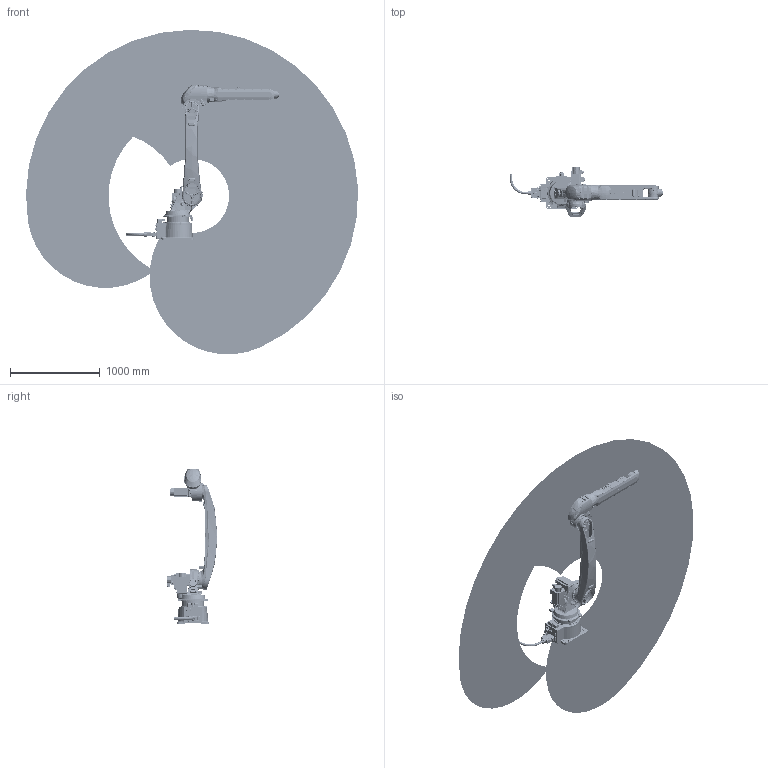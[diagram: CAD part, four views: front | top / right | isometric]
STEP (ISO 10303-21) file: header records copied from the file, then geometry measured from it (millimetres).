
FILE_DESCRIPTION(/* description */ (''),/* implementation_level */ '2;1');
FILE_NAME(/* name */ 'XB16s-R2013-XBC3线束 简化模型(20220426).stp',/* time_stamp */ '2022-04-26T16:07:57+08:00',/* author */ (''),/* organization */ (''),/* preprocessor_version */ 'ST-DEVELOPER v16',/* originating_system */ 'SIEMENS PLM Software NX 10.0',/* authorisation */ '');
FILE_SCHEMA (('CONFIG_CONTROL_DESIGN'));
Products named in the file (9): XB16-3Dwork-A; XB16-dabi-A; XB16&20&25-shuchu-A; XB16&20&25-shouwan-A; XB16&20-xiaobiqian-Alogo; XB16&20&25-xiaobihou-A; XB16&20&25-yao-A; XB16&20&25-base-A; XB16s-R2013-XBC3线束 简化模型(
20220426)
Assembly tree (8 placements, depth 2):
  XB16s-R2013-XBC3线束 简化模型(
20220426)
    XB16&20&25-base-A
    XB16&20&25-yao-A
    XB16&20&25-xiaobihou-A
    XB16&20-xiaobiqian-Alogo
    XB16&20&25-shouwan-A
    XB16&20&25-shuchu-A
    XB16-dabi-A
    XB16-3Dwork-A
Bounding box: 3703.8 x 559.9 x 3617.99 mm (x, y, z)
Volume: 76540129 mm3; surface area: 12479793.5 mm2
Topology: 8 solids, 100 shells, 6922 faces, 16914 edges, 10523 vertices
Faces by surface type: plane 2560, cylinder 1739, bspline 1246, cone 517, torus 414, extrusion 332, sphere 114
Full cylindrical faces by diameter (mm): 2.5 x4, 3 x4, 3.3 x18, 4.2 x8, 4.75 x4, 5 x24, 5.1 x4, 5.5 x42, 5.6 x15, 6 x1, 6.6 x2, 6.725 x4, 6.8 x14, 7 x75, 7.76 x18, 7.782 x3, 8.4 x18, 8.5 x20, 9.728 x2, 9.732 x23, 10 x24, 10.272 x2, 10.3 x8, 10.6 x20, 11 x25, 11.2 x1, 12.42 x1, 13 x27, 13.5 x1, 14 x17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
Entity records: 271211 total; most frequent: CARTESIAN_POINT 123797, ORIENTED_EDGE 30423, DIRECTION 27923, EDGE_CURVE 15215, AXIS2_PLACEMENT_3D 10662, VERTEX_POINT 10028, EDGE_LOOP 8515, ADVANCED_FACE 6922
